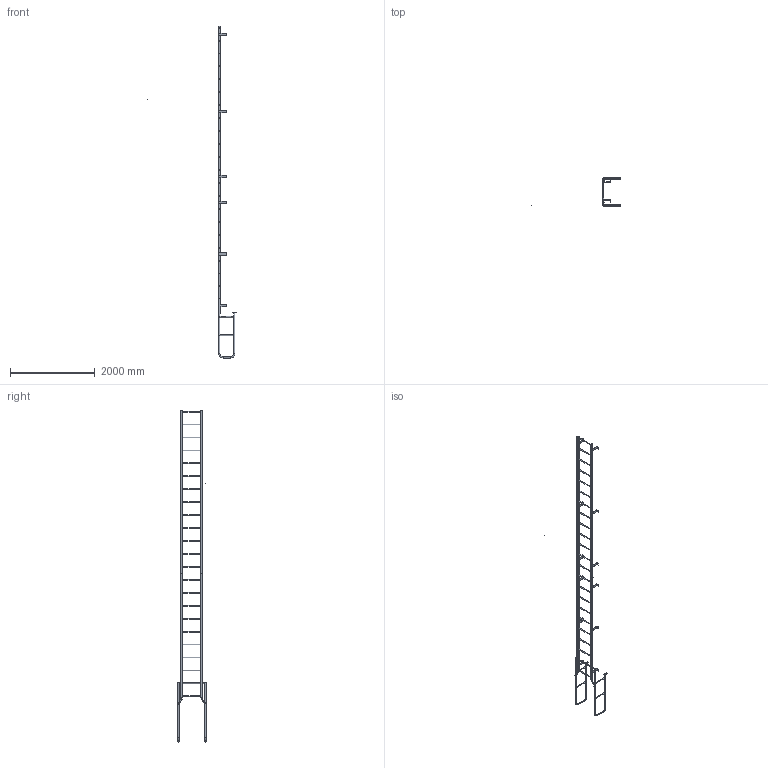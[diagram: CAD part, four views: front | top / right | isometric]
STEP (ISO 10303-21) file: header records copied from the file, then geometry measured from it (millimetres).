
FILE_DESCRIPTION(/* description */ (''),/* implementation_level */ '2;1');
FILE_NAME(/* name */ 'P:\MIKEL & KAREN\D0570351 F23W SIMPLIFIED PART.stp',/* time_stamp */ '2018-07-03T08:35:08-04:00',/* author */ ('stephanie'),/* organization */ (''),/* preprocessor_version */ 'ST-DEVELOPER v16.1',/* originating_system */ 'Autodesk Inventor 2016',/* authorisation */ '');
FILE_SCHEMA (('AUTOMOTIVE_DESIGN { 1 0 10303 214 3 1 1 }'));
Length unit declared in the file: centimetre
Products named in the file (1): D0570351 F23W SIMPLIFIED PART
Bounding box: 2090.6 x 685.8 x 7820.02 mm (x, y, z)
Volume: 12904758 mm3; surface area: 4644277.9 mm2
Topology: 32 solids, 32 shells, 458 faces, 1196 edges, 790 vertices
Faces by surface type: plane 252, cylinder 198, torus 8
Full cylindrical faces by diameter (mm): 0.254 x1, 10.319 x4, 14.287 x14, 19.05 x23, 22.098 x10, 22.225 x46, 25.4 x10
Entity records: 14108 total; most frequent: CARTESIAN_POINT 2601, DIRECTION 2340, ORIENTED_EDGE 2040, EDGE_CURVE 1016, AXIS2_PLACEMENT_3D 881, VERTEX_POINT 726, EDGE_LOOP 708, LINE 578
